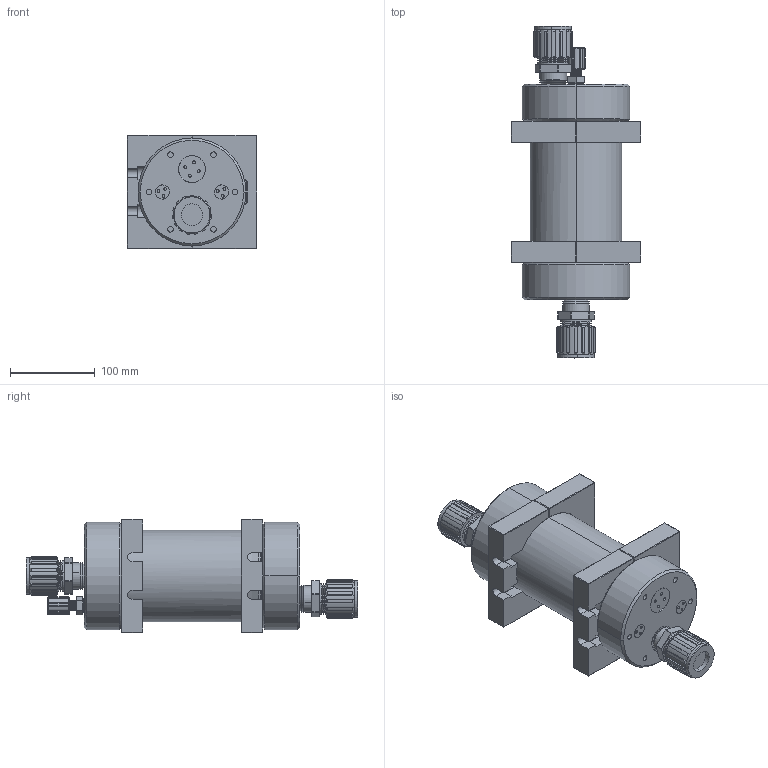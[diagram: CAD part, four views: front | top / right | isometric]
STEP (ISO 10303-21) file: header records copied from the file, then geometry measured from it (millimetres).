
FILE_DESCRIPTION (( 'STEP AP214' ), '1' );
FILE_NAME ('CPA-04A01L-F12F04.STEP', '2014-06-27T17:32:42', ( '' ), ( '' ), 'SwSTEP 2.0', 'SolidWorks 2012', '' );
FILE_SCHEMA (( 'AUTOMOTIVE_DESIGN' ));
Length unit declared in the file: inch
Products named in the file (1): CPA-04A01L-F12F04
Bounding box: 152.4 x 391.46 x 133.35 mm (x, y, z)
Volume: 3333711.5 mm3; surface area: 231808.8 mm2
Topology: 3 solids, 3 shells, 901 faces, 2325 edges, 1466 vertices
Faces by surface type: plane 406, cylinder 279, cone 178, torus 26, bspline 12
Entity records: 57788 total; most frequent: CARTESIAN_POINT 30455, DIRECTION 4659, ORIENTED_EDGE 4650, EDGE_CURVE 2325, AXIS2_PLACEMENT_3D 1728, VERTEX_POINT 1466, LINE 1203, VECTOR 1203
